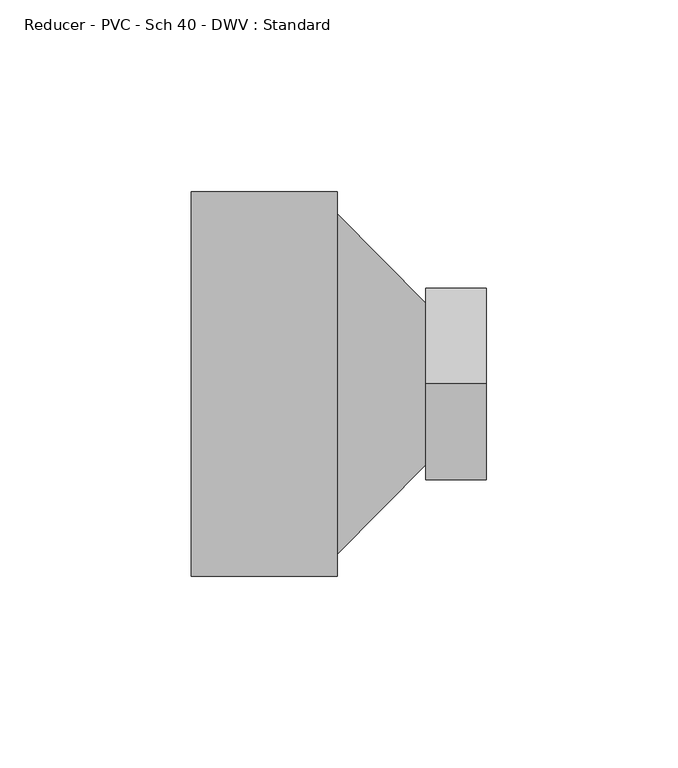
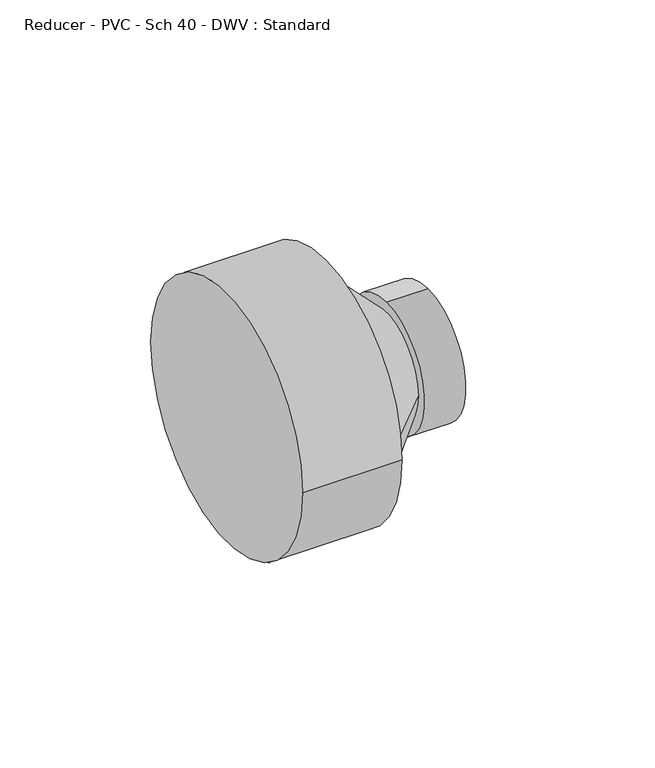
"""IFC4 building model written with IfcOpenShell, lengths in millimetres: pipe fitting geometry, Reducer - PVC - Sch 40 - DWV : Standard."""

from ifc_helpers import new_model, si_unit, frame, origin, place, context, project, spatial, polyline, circle_curve, source, transform, mapped, element, save
from ifc_brep_helpers import plane_surface, cylinder_surface, revolved_surface, advanced_brep


def reducer_pvc_sch_40_dwv_standard_cf29b970(model_context):
    return source(origin(), model_context, "Body", "AdvancedBrep", [
        advanced_brep(
        [(0.0, 50.2666, 0.0), (0.0, -50.2666, 0.0), (38.1, 50.2666, 0.0), (38.1, -50.2666, 0.0), (38.1, -44.45, 0.0), (38.1, 44.45, 0.0), (61.1385938, 21.0740625, 0.0), (61.1385938, -21.0740625, 0.0), (61.1385938, 0.0, 25.1321094), (61.1385938, 0.0, -25.1321094), (77.0135938, 0.0, 25.1321094), (77.0135938, 0.0, -25.1321094)],
        [
            (0, 1, circle_curve(frame((0.0, 0.0, 0.0), z_axis=(-1.0, 0.0, 0.0), x_axis=(0.0, -1.0, 0.0)), 50.2666)),
            (1, 0, circle_curve(frame((0.0, 0.0, 0.0), z_axis=(-1.0, 0.0, 0.0), x_axis=(0.0, -1.0, 0.0)), 50.2666)),
            (2, 3, circle_curve(frame((38.1, 0.0, 0.0), z_axis=(1.0, 0.0, 0.0), x_axis=(0.0, -1.0, 0.0)), 50.2666)),
            (3, 2, circle_curve(frame((38.1, 0.0, 0.0), z_axis=(1.0, 0.0, 0.0), x_axis=(0.0, -1.0, 0.0)), 50.2666)),
            (4, 5, circle_curve(frame((38.1, 0.0, 0.0), z_axis=(-1.0, 0.0, 0.0), x_axis=(0.0, -1.0, 0.0)), 44.45)),
            (5, 4, circle_curve(frame((38.1, 0.0, 0.0), z_axis=(-1.0, 0.0, 0.0), x_axis=(0.0, 1.0, 0.0)), 44.45)),
            (1, 3),
            (2, 0),
            (5, 6),
            (6, 7, circle_curve(frame((61.1385938, 0.0, 0.0), z_axis=(-1.0, 0.0, 0.0), x_axis=(0.0, 1.0, 0.0)), 21.0740625)),
            (7, 4),
            (7, 6, circle_curve(frame((61.1385938, 0.0, 0.0), z_axis=(-1.0, 0.0, 0.0), x_axis=(0.0, -1.0, 0.0)), 21.0740625)),
            (8, 9, circle_curve(frame((61.1385938, 0.0, 0.0), z_axis=(-1.0, 0.0, 0.0), x_axis=(0.0, 0.0, -1.0)), 25.1321094)),
            (9, 8, circle_curve(frame((61.1385938, 0.0, 0.0), z_axis=(-1.0, 0.0, 0.0), x_axis=(0.0, 0.0, -1.0)), 25.1321094)),
            (10, 11, circle_curve(frame((77.0135938, 0.0, 0.0), z_axis=(1.0, 0.0, 0.0), x_axis=(0.0, 0.0, -1.0)), 25.1321094)),
            (11, 10, circle_curve(frame((77.0135938, 0.0, 0.0), z_axis=(1.0, 0.0, 0.0), x_axis=(0.0, 0.0, -1.0)), 25.1321094)),
            (9, 11),
            (10, 8),
        ],
        [
            plane_surface(frame((0.0, 0.0, 0.0), z_axis=(-1.0, 0.0, 0.0), x_axis=(0.0, 0.0, 1.0))),
            plane_surface(frame((38.1, 0.0, 0.0), z_axis=(1.0, 0.0, 0.0), x_axis=(0.0, 0.0, 1.0))),
            cylinder_surface(frame((0.0, 0.0, 0.0), z_axis=(-1.0, 0.0, 0.0), x_axis=(0.0, -1.0, 0.0)), 50.2666),
            revolved_surface(polyline([(61.1385938, -21.074062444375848, 0.0), (38.1, -44.45, 0.0)]), (81.9085314, 0.0, 0.0), (-1.0, 0.0, 0.0)),
            revolved_surface(polyline([(61.1385938, 21.074062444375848, 0.0), (38.1, 44.45, 0.0)]), (81.9085314, 0.0, 0.0), (-1.0, 0.0, 0.0)),
            plane_surface(frame((61.1385938, 0.0, 0.0), z_axis=(-1.0, 0.0, 0.0), x_axis=(0.0, -1.0, 0.0))),
            plane_surface(frame((77.0135938, 0.0, 0.0), z_axis=(1.0, 0.0, 0.0), x_axis=(0.0, -1.0, 0.0))),
            cylinder_surface(frame((61.1385938, 0.0, 0.0), z_axis=(-1.0, 0.0, 0.0), x_axis=(0.0, 0.0, -1.0)), 25.1321094),
        ],
        [
            (0, [[1, 2]]),
            (1, [[3, 4], [5, 6]]),
            (2, [[7, -3, 8, -2]]),
            (2, [[-8, -4, -7, -1]]),
            (3, [[-6, 9, 10, 11]]),
            (4, [[12, -9, -5, -11]]),
            (5, [[13, 14], [-12, -10]]),
            (6, [[15, 16]]),
            (7, [[17, -15, 18, -14]]),
            (7, [[-18, -16, -17, -13]]),
        ],
    ),
    ])


if __name__ == "__main__":
    model = new_model("IFC4")
    model_context = context("Model", 3, world=origin())
    ifc_project = project(units=[si_unit("LENGTHUNIT", "METRE", prefix="MILLI")], contexts=[model_context])
    site = spatial("IfcSite", under=ifc_project)
    building = spatial("IfcBuilding", under=site)
    placement = place(None, origin())
    reducer_pvc_sch_40_dwv_standard_shape = reducer_pvc_sch_40_dwv_standard_cf29b970(model_context)
    element("IfcPipeFitting", 1, ObjectType="Reducer - PVC - Sch 40 - DWV : Standard", at=placement, inside=building, context=model_context, shape_type="MappedRepresentation", body=[
        mapped(reducer_pvc_sch_40_dwv_standard_shape, transform((0.0, 0.0, 0.0), x_axis=(1.0, 0.0, 0.0), y_axis=(0.0, 1.0, 0.0), z_axis=(0.0, 0.0, 1.0))),
    ])
    save(model, "model.ifc")
